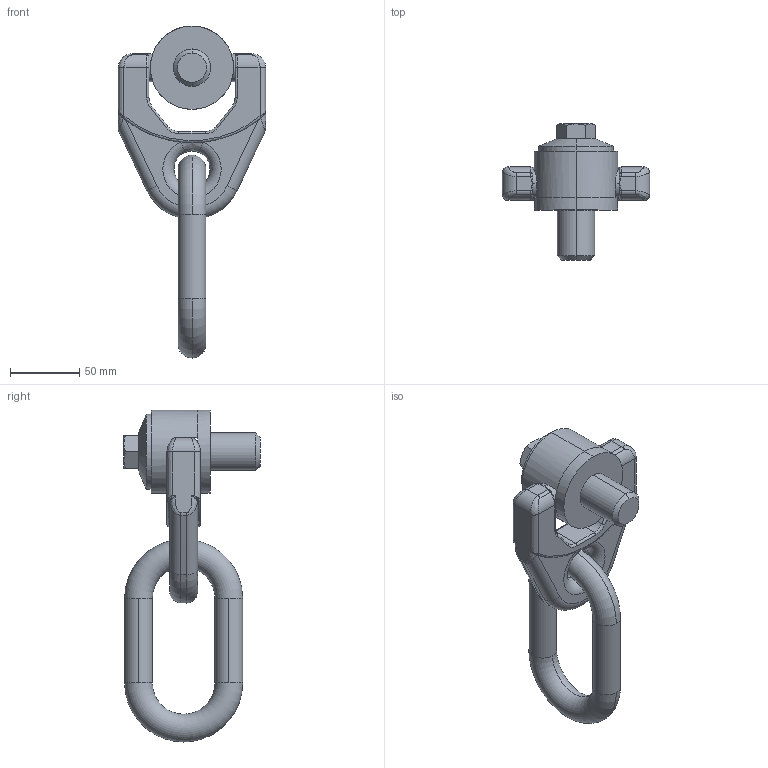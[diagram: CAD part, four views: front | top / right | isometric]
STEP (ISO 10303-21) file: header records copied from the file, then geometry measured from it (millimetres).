
FILE_DESCRIPTION (( 'STEP AP203' ), '1' );
FILE_NAME ('63150.W0027.step', '2013-12-13T11:52:44', ( 'User' ), ( '' ), 'SwSTEP 2.0', 'SolidWorks 2009', '' );
FILE_SCHEMA (( 'CONFIG_CONTROL_DESIGN' ));
Length unit declared in the file: millimetre
Products named in the file (4): 63150.W0027; Part1_63150.W0027; Part2C; Part3_63150.W0027
Assembly tree (3 placements, depth 2):
  63150.W0027
    Part3_63150.W0027
    Part1_63150.W0027
    Part2C
Bounding box: 106 x 98 x 239 mm (x, y, z)
Volume: 387909.4 mm3; surface area: 67758 mm2
Topology: 3 solids, 3 shells, 170 faces, 419 edges, 247 vertices
Faces by surface type: cylinder 54, bspline 46, plane 38, torus 22, cone 10
Entity records: 7536 total; most frequent: CARTESIAN_POINT 3436, ORIENTED_EDGE 826, DIRECTION 734, EDGE_CURVE 413, AXIS2_PLACEMENT_3D 305, VERTEX_POINT 247, CIRCLE 175, EDGE_LOOP 174
